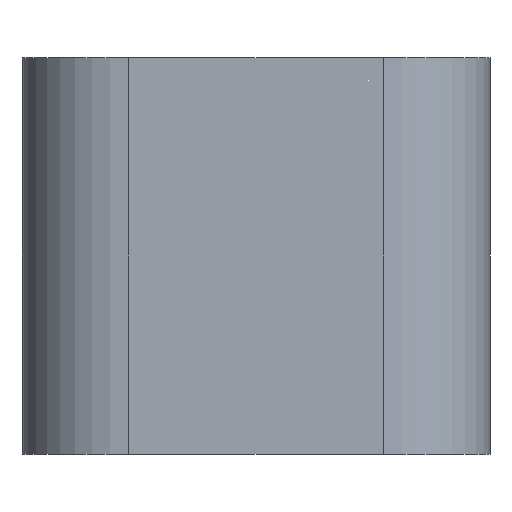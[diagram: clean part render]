
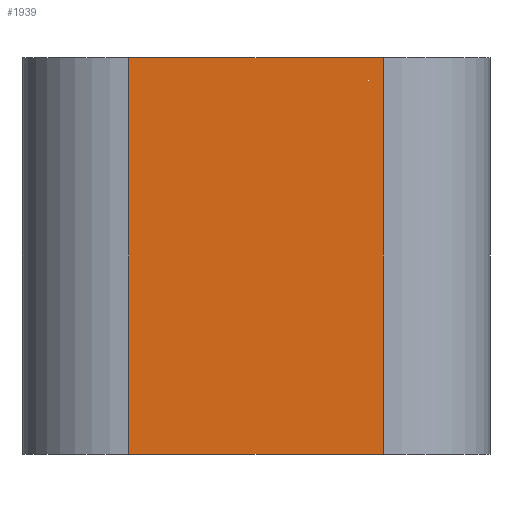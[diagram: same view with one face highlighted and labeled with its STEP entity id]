
A CAD part, front view. The second image highlights one B-rep face of the part: STEP entity #1939.
In plain terms, the highlighted planar face has unit normal (0, -1, 0).
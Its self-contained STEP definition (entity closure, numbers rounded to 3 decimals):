
#1417 = PLANE('',#1418);
#1418 = AXIS2_PLACEMENT_3D('',#1419,#1420,#1421);
#1419 = CARTESIAN_POINT('',(-2.3,-31.95,5.2));
#1420 = DIRECTION('',(0.,0.,1.));
#1421 = DIRECTION('',(1.,0.,0.));
#1445 = CYLINDRICAL_SURFACE('',#1446,1.05);
#1446 = AXIS2_PLACEMENT_3D('',#1447,#1448,#1449);
#1447 = CARTESIAN_POINT('',(-1.25,-30.9,1.3));
#1448 = DIRECTION('',(0.,0.,1.));
#1449 = DIRECTION('',(-1.,-0.,0.));
#1473 = PLANE('',#1474);
#1474 = AXIS2_PLACEMENT_3D('',#1475,#1476,#1477);
#1475 = CARTESIAN_POINT('',(-2.3,-31.95,1.3));
#1476 = DIRECTION('',(0.,0.,1.));
#1477 = DIRECTION('',(1.,0.,0.));
#1516 = VERTEX_POINT('',#1517);
#1517 = CARTESIAN_POINT('',(-1.25,-31.95,5.2));
#1539 = EDGE_CURVE('',#1516,#1540,#1542,.T.);
#1540 = VERTEX_POINT('',#1541);
#1541 = CARTESIAN_POINT('',(1.25,-31.95,5.2));
#1542 = SURFACE_CURVE('',#1543,(#1547,#1554),.PCURVE_S1.);
#1543 = LINE('',#1544,#1545);
#1544 = CARTESIAN_POINT('',(-2.3,-31.95,5.2));
#1545 = VECTOR('',#1546,1.);
#1546 = DIRECTION('',(1.,0.,0.));
#1547 = PCURVE('',#1417,#1548);
#1548 = DEFINITIONAL_REPRESENTATION('',(#1549),#1553);
#1549 = LINE('',#1550,#1551);
#1550 = CARTESIAN_POINT('',(0.,0.));
#1551 = VECTOR('',#1552,1.);
#1552 = DIRECTION('',(1.,0.));
#1553 = ( GEOMETRIC_REPRESENTATION_CONTEXT(2) 
PARAMETRIC_REPRESENTATION_CONTEXT() REPRESENTATION_CONTEXT('2D SPACE',''
  ) );
#1554 = PCURVE('',#1555,#1560);
#1555 = PLANE('',#1556);
#1556 = AXIS2_PLACEMENT_3D('',#1557,#1558,#1559);
#1557 = CARTESIAN_POINT('',(-2.3,-31.95,1.3));
#1558 = DIRECTION('',(0.,1.,0.));
#1559 = DIRECTION('',(0.,0.,1.));
#1560 = DEFINITIONAL_REPRESENTATION('',(#1561),#1565);
#1561 = LINE('',#1562,#1563);
#1562 = CARTESIAN_POINT('',(3.9,0.));
#1563 = VECTOR('',#1564,1.);
#1564 = DIRECTION('',(0.,1.));
#1565 = ( GEOMETRIC_REPRESENTATION_CONTEXT(2) 
PARAMETRIC_REPRESENTATION_CONTEXT() REPRESENTATION_CONTEXT('2D SPACE',''
  ) );
#1588 = CYLINDRICAL_SURFACE('',#1589,1.05);
#1589 = AXIS2_PLACEMENT_3D('',#1590,#1591,#1592);
#1590 = CARTESIAN_POINT('',(1.25,-30.9,1.3));
#1591 = DIRECTION('',(0.,0.,1.));
#1592 = DIRECTION('',(1.,0.,-0.));
#1715 = VERTEX_POINT('',#1716);
#1716 = CARTESIAN_POINT('',(-1.25,-31.95,1.3));
#1738 = EDGE_CURVE('',#1715,#1516,#1739,.T.);
#1739 = SURFACE_CURVE('',#1740,(#1744,#1751),.PCURVE_S1.);
#1740 = LINE('',#1741,#1742);
#1741 = CARTESIAN_POINT('',(-1.25,-31.95,1.3));
#1742 = VECTOR('',#1743,1.);
#1743 = DIRECTION('',(0.,0.,1.));
#1744 = PCURVE('',#1445,#1745);
#1745 = DEFINITIONAL_REPRESENTATION('',(#1746),#1750);
#1746 = LINE('',#1747,#1748);
#1747 = CARTESIAN_POINT('',(1.571,0.));
#1748 = VECTOR('',#1749,1.);
#1749 = DIRECTION('',(0.,1.));
#1750 = ( GEOMETRIC_REPRESENTATION_CONTEXT(2) 
PARAMETRIC_REPRESENTATION_CONTEXT() REPRESENTATION_CONTEXT('2D SPACE',''
  ) );
#1751 = PCURVE('',#1555,#1752);
#1752 = DEFINITIONAL_REPRESENTATION('',(#1753),#1757);
#1753 = LINE('',#1754,#1755);
#1754 = CARTESIAN_POINT('',(0.,1.05));
#1755 = VECTOR('',#1756,1.);
#1756 = DIRECTION('',(1.,0.));
#1757 = ( GEOMETRIC_REPRESENTATION_CONTEXT(2) 
PARAMETRIC_REPRESENTATION_CONTEXT() REPRESENTATION_CONTEXT('2D SPACE',''
  ) );
#1820 = EDGE_CURVE('',#1715,#1821,#1823,.T.);
#1821 = VERTEX_POINT('',#1822);
#1822 = CARTESIAN_POINT('',(1.25,-31.95,1.3));
#1823 = SURFACE_CURVE('',#1824,(#1828,#1835),.PCURVE_S1.);
#1824 = LINE('',#1825,#1826);
#1825 = CARTESIAN_POINT('',(-2.3,-31.95,1.3));
#1826 = VECTOR('',#1827,1.);
#1827 = DIRECTION('',(1.,0.,0.));
#1828 = PCURVE('',#1473,#1829);
#1829 = DEFINITIONAL_REPRESENTATION('',(#1830),#1834);
#1830 = LINE('',#1831,#1832);
#1831 = CARTESIAN_POINT('',(0.,0.));
#1832 = VECTOR('',#1833,1.);
#1833 = DIRECTION('',(1.,0.));
#1834 = ( GEOMETRIC_REPRESENTATION_CONTEXT(2) 
PARAMETRIC_REPRESENTATION_CONTEXT() REPRESENTATION_CONTEXT('2D SPACE',''
  ) );
#1835 = PCURVE('',#1555,#1836);
#1836 = DEFINITIONAL_REPRESENTATION('',(#1837),#1841);
#1837 = LINE('',#1838,#1839);
#1838 = CARTESIAN_POINT('',(0.,0.));
#1839 = VECTOR('',#1840,1.);
#1840 = DIRECTION('',(0.,1.));
#1841 = ( GEOMETRIC_REPRESENTATION_CONTEXT(2) 
PARAMETRIC_REPRESENTATION_CONTEXT() REPRESENTATION_CONTEXT('2D SPACE',''
  ) );
#1939 = ADVANCED_FACE('',(#1940),#1555,.F.);
#1940 = FACE_BOUND('',#1941,.F.);
#1941 = EDGE_LOOP('',(#1942,#1943,#1944,#1945));
#1942 = ORIENTED_EDGE('',*,*,#1820,.F.);
#1943 = ORIENTED_EDGE('',*,*,#1738,.T.);
#1944 = ORIENTED_EDGE('',*,*,#1539,.T.);
#1945 = ORIENTED_EDGE('',*,*,#1946,.F.);
#1946 = EDGE_CURVE('',#1821,#1540,#1947,.T.);
#1947 = SURFACE_CURVE('',#1948,(#1952,#1959),.PCURVE_S1.);
#1948 = LINE('',#1949,#1950);
#1949 = CARTESIAN_POINT('',(1.25,-31.95,1.3));
#1950 = VECTOR('',#1951,1.);
#1951 = DIRECTION('',(0.,0.,1.));
#1952 = PCURVE('',#1555,#1953);
#1953 = DEFINITIONAL_REPRESENTATION('',(#1954),#1958);
#1954 = LINE('',#1955,#1956);
#1955 = CARTESIAN_POINT('',(0.,3.55));
#1956 = VECTOR('',#1957,1.);
#1957 = DIRECTION('',(1.,0.));
#1958 = ( GEOMETRIC_REPRESENTATION_CONTEXT(2) 
PARAMETRIC_REPRESENTATION_CONTEXT() REPRESENTATION_CONTEXT('2D SPACE',''
  ) );
#1959 = PCURVE('',#1588,#1960);
#1960 = DEFINITIONAL_REPRESENTATION('',(#1961),#1965);
#1961 = LINE('',#1962,#1963);
#1962 = CARTESIAN_POINT('',(-1.571,0.));
#1963 = VECTOR('',#1964,1.);
#1964 = DIRECTION('',(-0.,1.));
#1965 = ( GEOMETRIC_REPRESENTATION_CONTEXT(2) 
PARAMETRIC_REPRESENTATION_CONTEXT() REPRESENTATION_CONTEXT('2D SPACE',''
  ) );
